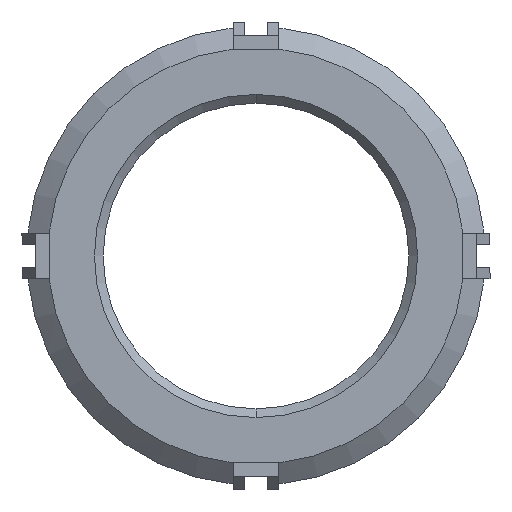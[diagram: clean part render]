
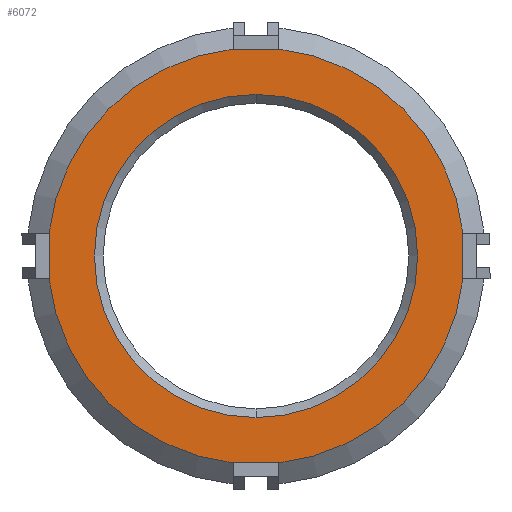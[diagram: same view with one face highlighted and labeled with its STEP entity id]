
A CAD part, front view. The second image highlights one B-rep face of the part: STEP entity #6072.
In plain terms, the highlighted planar face has unit normal (0, -1, 0).
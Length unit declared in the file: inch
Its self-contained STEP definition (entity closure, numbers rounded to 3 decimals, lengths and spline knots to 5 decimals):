
#4 = CARTESIAN_POINT ( 'NONE',  ( -0.05625, 0., -0.50735 ) ) ;
#32 = AXIS2_PLACEMENT_3D ( 'NONE', #4324, #485, #2707 ) ;
#35 = CARTESIAN_POINT ( 'NONE',  ( 0.05625, 0., 0.50735 ) ) ;
#200 = PLANE ( 'NONE',  #1771 ) ;
#205 = ORIENTED_EDGE ( 'NONE', *, *, #4938, .T. ) ;
#287 = DIRECTION ( 'NONE',  ( 0., 0., 1. ) ) ;
#342 = CARTESIAN_POINT ( 'NONE',  ( -0.50735, 0., 0.05625 ) ) ;
#485 = DIRECTION ( 'NONE',  ( 0., -1., 0. ) ) ;
#583 = LINE ( 'NONE', #4961, #3124 ) ;
#744 = AXIS2_PLACEMENT_3D ( 'NONE', #6885, #2495, #4172 ) ;
#767 = ORIENTED_EDGE ( 'NONE', *, *, #6344, .F. ) ;
#800 = EDGE_LOOP ( 'NONE', ( #2148, #5104, #4155, #767, #205, #4299, #4315, #4731 ) ) ;
#825 = CARTESIAN_POINT ( 'NONE',  ( -0.05625, 0., 0.50735 ) ) ;
#836 = EDGE_CURVE ( 'NONE', #6012, #5762, #4725, .T. ) ;
#883 = EDGE_CURVE ( 'NONE', #5859, #6374, #3925, .T. ) ;
#961 = EDGE_CURVE ( 'NONE', #5762, #6012, #6778, .T. ) ;
#1025 = DIRECTION ( 'NONE',  ( 0., -1., 0. ) ) ;
#1071 = DIRECTION ( 'NONE',  ( 0., -1., 0. ) ) ;
#1088 = VECTOR ( 'NONE', #4804, 39.37008 ) ;
#1216 = CIRCLE ( 'NONE', #3512, 0.51046 ) ;
#1317 = EDGE_CURVE ( 'NONE', #3898, #1548, #583, .T. ) ;
#1400 = LINE ( 'NONE', #2515, #1088 ) ;
#1410 = CARTESIAN_POINT ( 'NONE',  ( 0.50735, 0., 0.05625 ) ) ;
#1439 = AXIS2_PLACEMENT_3D ( 'NONE', #2612, #1071, #3258 ) ;
#1548 = VERTEX_POINT ( 'NONE', #342 ) ;
#1653 = VERTEX_POINT ( 'NONE', #2652 ) ;
#1709 = CARTESIAN_POINT ( 'NONE',  ( 0.50735, 0., -0.05625 ) ) ;
#1744 = LINE ( 'NONE', #1709, #4761 ) ;
#1771 = AXIS2_PLACEMENT_3D ( 'NONE', #4489, #5731, #6236 ) ;
#1975 = VERTEX_POINT ( 'NONE', #4314 ) ;
#2148 = ORIENTED_EDGE ( 'NONE', *, *, #2941, .T. ) ;
#2495 = DIRECTION ( 'NONE',  ( 0., -1., 0. ) ) ;
#2515 = CARTESIAN_POINT ( 'NONE',  ( 0.05625, 0., 0.50735 ) ) ;
#2529 = EDGE_LOOP ( 'NONE', ( #6776, #6484 ) ) ;
#2612 = CARTESIAN_POINT ( 'NONE',  ( 0., 0., 0. ) ) ;
#2652 = CARTESIAN_POINT ( 'NONE',  ( 0.50735, 0., -0.05625 ) ) ;
#2707 = DIRECTION ( 'NONE',  ( 0., 0., -1. ) ) ;
#2941 = EDGE_CURVE ( 'NONE', #4834, #1548, #6227, .T. ) ;
#3024 = CARTESIAN_POINT ( 'NONE',  ( 0., 0., 0.39643 ) ) ;
#3124 = VECTOR ( 'NONE', #5916, 39.37008 ) ;
#3258 = DIRECTION ( 'NONE',  ( 0., 0., -1. ) ) ;
#3298 = LINE ( 'NONE', #4, #6580 ) ;
#3512 = AXIS2_PLACEMENT_3D ( 'NONE', #4872, #1025, #7042 ) ;
#3580 = AXIS2_PLACEMENT_3D ( 'NONE', #5149, #4616, #5643 ) ;
#3898 = VERTEX_POINT ( 'NONE', #6108 ) ;
#3925 = CIRCLE ( 'NONE', #32, 0.51046 ) ;
#3993 = FACE_OUTER_BOUND ( 'NONE', #800, .T. ) ;
#4119 = VERTEX_POINT ( 'NONE', #4181 ) ;
#4155 = ORIENTED_EDGE ( 'NONE', *, *, #4565, .T. ) ;
#4172 = DIRECTION ( 'NONE',  ( 0., 0., -1. ) ) ;
#4181 = CARTESIAN_POINT ( 'NONE',  ( -0.05625, 0., -0.50735 ) ) ;
#4299 = ORIENTED_EDGE ( 'NONE', *, *, #4655, .F. ) ;
#4314 = CARTESIAN_POINT ( 'NONE',  ( 0.05625, 0., -0.50735 ) ) ;
#4315 = ORIENTED_EDGE ( 'NONE', *, *, #883, .T. ) ;
#4324 = CARTESIAN_POINT ( 'NONE',  ( 0., 0., 0. ) ) ;
#4378 = AXIS2_PLACEMENT_3D ( 'NONE', #4722, #5188, #287 ) ;
#4489 = CARTESIAN_POINT ( 'NONE',  ( 0., 0., 0. ) ) ;
#4565 = EDGE_CURVE ( 'NONE', #3898, #4119, #5438, .T. ) ;
#4616 = DIRECTION ( 'NONE',  ( 0., 1., 0. ) ) ;
#4655 = EDGE_CURVE ( 'NONE', #5859, #1653, #1744, .T. ) ;
#4722 = CARTESIAN_POINT ( 'NONE',  ( 0., 0., 0. ) ) ;
#4725 = CIRCLE ( 'NONE', #4378, 0.39643 ) ;
#4731 = ORIENTED_EDGE ( 'NONE', *, *, #6217, .F. ) ;
#4761 = VECTOR ( 'NONE', #6044, 39.37008 ) ;
#4804 = DIRECTION ( 'NONE',  ( 1., 0., 0. ) ) ;
#4834 = VERTEX_POINT ( 'NONE', #825 ) ;
#4872 = CARTESIAN_POINT ( 'NONE',  ( 0., 0., 0. ) ) ;
#4938 = EDGE_CURVE ( 'NONE', #1975, #1653, #1216, .T. ) ;
#4944 = DIRECTION ( 'NONE',  ( -1., 0., 0. ) ) ;
#4961 = CARTESIAN_POINT ( 'NONE',  ( -0.50735, 0., 0.05625 ) ) ;
#5099 = FACE_BOUND ( 'NONE', #2529, .T. ) ;
#5104 = ORIENTED_EDGE ( 'NONE', *, *, #1317, .F. ) ;
#5149 = CARTESIAN_POINT ( 'NONE',  ( 0., 0., 0. ) ) ;
#5188 = DIRECTION ( 'NONE',  ( 0., 1., 0. ) ) ;
#5438 = CIRCLE ( 'NONE', #1439, 0.51046 ) ;
#5643 = DIRECTION ( 'NONE',  ( 0., 0., 1. ) ) ;
#5731 = DIRECTION ( 'NONE',  ( 0., 1., 0. ) ) ;
#5762 = VERTEX_POINT ( 'NONE', #3024 ) ;
#5859 = VERTEX_POINT ( 'NONE', #1410 ) ;
#5916 = DIRECTION ( 'NONE',  ( 0., 0., 1. ) ) ;
#5974 = CARTESIAN_POINT ( 'NONE',  ( 0., 0., -0.39643 ) ) ;
#6012 = VERTEX_POINT ( 'NONE', #5974 ) ;
#6044 = DIRECTION ( 'NONE',  ( 0., 0., -1. ) ) ;
#6072 = ADVANCED_FACE ( 'NONE', ( #5099, #3993 ), #200, .F. ) ;
#6108 = CARTESIAN_POINT ( 'NONE',  ( -0.50735, 0., -0.05625 ) ) ;
#6217 = EDGE_CURVE ( 'NONE', #4834, #6374, #1400, .T. ) ;
#6227 = CIRCLE ( 'NONE', #744, 0.51046 ) ;
#6236 = DIRECTION ( 'NONE',  ( 0., 0., 1. ) ) ;
#6344 = EDGE_CURVE ( 'NONE', #1975, #4119, #3298, .T. ) ;
#6374 = VERTEX_POINT ( 'NONE', #35 ) ;
#6484 = ORIENTED_EDGE ( 'NONE', *, *, #961, .T. ) ;
#6580 = VECTOR ( 'NONE', #4944, 39.37008 ) ;
#6776 = ORIENTED_EDGE ( 'NONE', *, *, #836, .T. ) ;
#6778 = CIRCLE ( 'NONE', #3580, 0.39643 ) ;
#6885 = CARTESIAN_POINT ( 'NONE',  ( 0., 0., 0. ) ) ;
#7042 = DIRECTION ( 'NONE',  ( 0., 0., -1. ) ) ;
